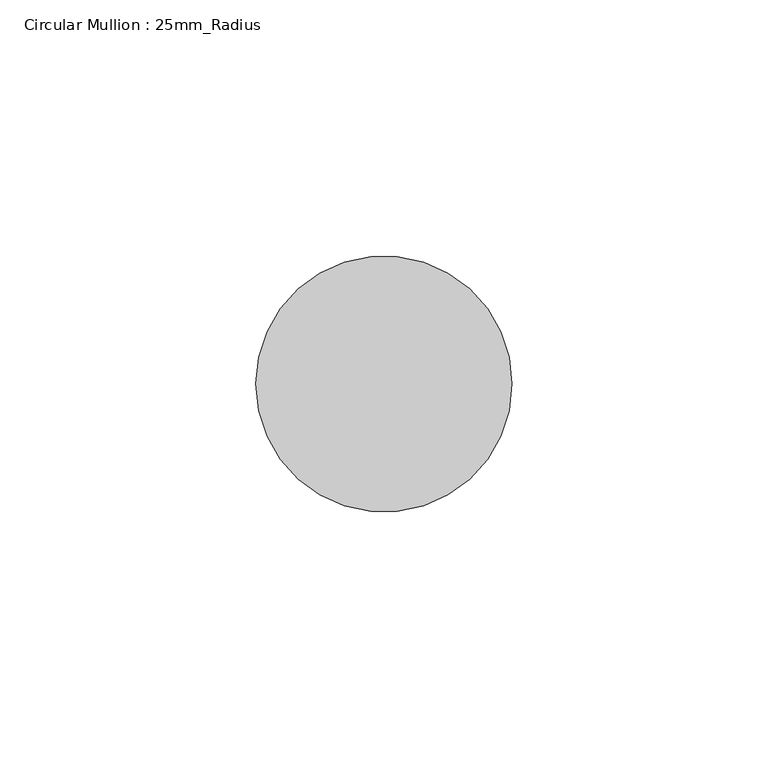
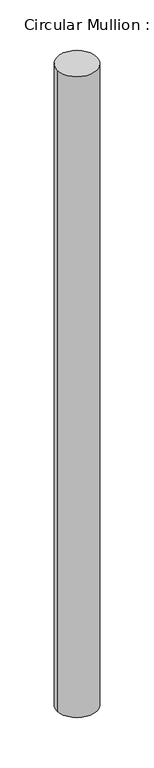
"""IFC4 building model written with IfcOpenShell, lengths in millimetres: member geometry, Circular Mullion : 25mm_Radius."""

from ifc_helpers import new_model, si_unit, point, frame, frame_2d, origin, place, context, project, spatial, circle_curve, trimmed, segment, composite_curve, outline, extrude, source, transform, mapped, element, save


def circular_mullion_25mm_radius_3bb0a7d4(model_context):
    return source(origin(), model_context, "Body", "SweptSolid", [
        extrude(outline(composite_curve([segment(trimmed(circle_curve(frame_2d((-25.0, 0.0)), 25.0), [point((0.0, 0.0))], [point((-50.0, 0.0))], False, "CARTESIAN"), True, "CONTINUOUS"), segment(trimmed(circle_curve(frame_2d((-25.0, 0.0)), 25.0), [point((-50.0, 0.0))], [point((0.0, 0.0))], False, "CARTESIAN"), True, "CONTINUOUS")], self_intersect=False)), frame((0.0, 0.0, -856.0), z_axis=(0.0, 0.0, 1.0), x_axis=(1.0, 0.0, 0.0)), (0.0, 0.0, 1.0), 856.0),
    ])


if __name__ == "__main__":
    model = new_model("IFC4")
    model_context = context("Model", 3, world=origin())
    ifc_project = project(units=[si_unit("LENGTHUNIT", "METRE", prefix="MILLI")], contexts=[model_context])
    site = spatial("IfcSite", under=ifc_project)
    building = spatial("IfcBuilding", under=site)
    placement = place(None, origin())
    circular_mullion_25mm_radius_shape = circular_mullion_25mm_radius_3bb0a7d4(model_context)
    element("IfcMember", 1, ObjectType="Circular Mullion : 25mm_Radius", at=placement, inside=building, context=model_context, shape_type="MappedRepresentation", body=[
        mapped(circular_mullion_25mm_radius_shape, transform((0.0, 0.0, 0.0), x_axis=(1.0, 0.0, 0.0), y_axis=(0.0, 1.0, 0.0), z_axis=(0.0, 0.0, 1.0))),
    ])
    save(model, "model.ifc")
